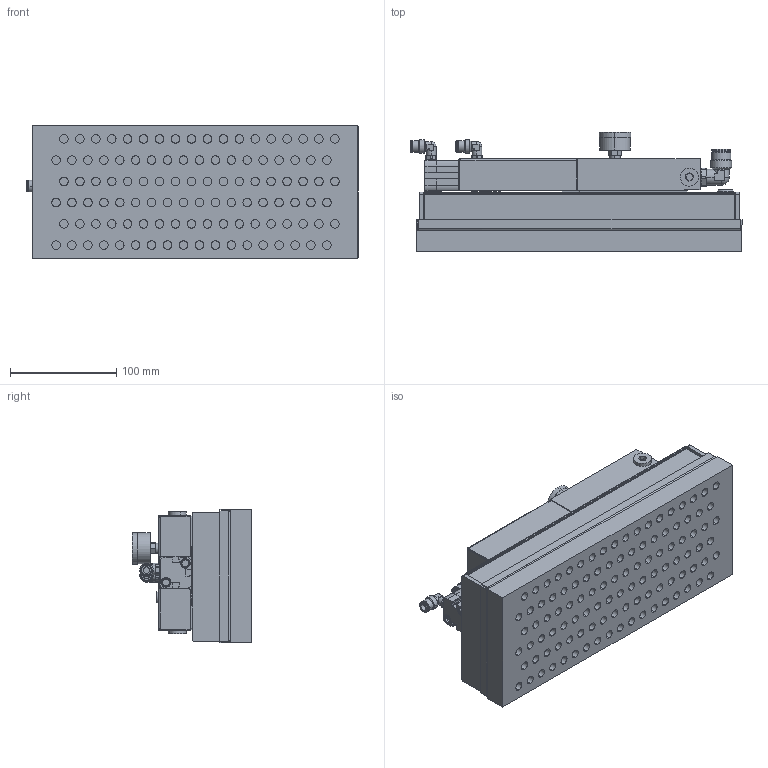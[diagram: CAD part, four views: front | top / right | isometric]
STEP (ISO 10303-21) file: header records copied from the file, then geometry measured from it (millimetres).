
FILE_DESCRIPTION (( 'STEP AP214' ), '1' );
FILE_NAME ('3-9-23612.STEP', '2013-03-18T10:33:25', ( '' ), ( '' ), 'SwSTEP 2.0', 'SolidWorks 2013', '' );
FILE_SCHEMA (( 'AUTOMOTIVE_DESIGN' ));
Length unit declared in the file: millimetre
Products named in the file (1): 3-9-23612
Bounding box: 312.5 x 112.7 x 126 mm (x, y, z)
Volume: 2615956.2 mm3; surface area: 306014.7 mm2
Topology: 1 solids, 1 shells, 1394 faces, 3309 edges, 2097 vertices
Faces by surface type: plane 671, cylinder 558, cone 92, bspline 68, sphere 5
Entity records: 55410 total; most frequent: CARTESIAN_POINT 11365, DIRECTION 7122, ORIENTED_EDGE 6618, EDGE_CURVE 3309, AXIS2_PLACEMENT_3D 2638, VERTEX_POINT 2097, LINE 1846, VECTOR 1846
